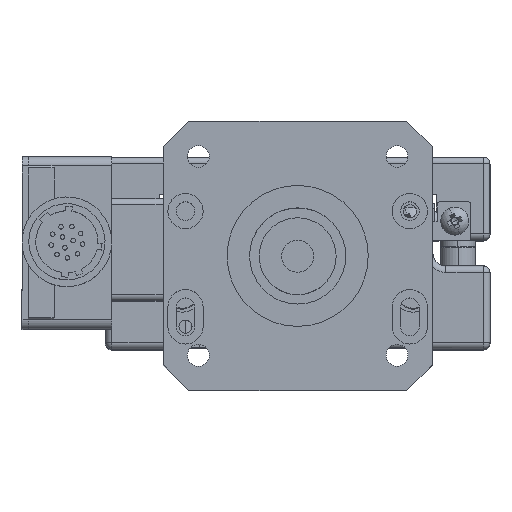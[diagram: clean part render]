
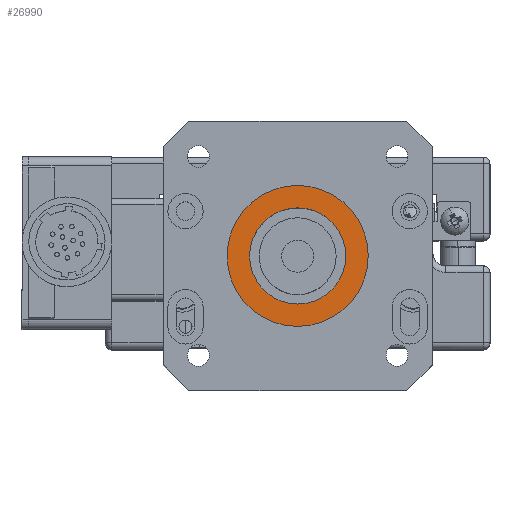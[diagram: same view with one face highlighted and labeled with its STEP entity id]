
A CAD part, top view. The second image highlights one B-rep face of the part: STEP entity #26990.
In plain terms, the highlighted planar face has unit normal (0, 0, 1).
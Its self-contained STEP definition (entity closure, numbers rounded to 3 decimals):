
#665 = PLANE ( 'NONE',  #44807 ) ;
#7030 = CIRCLE ( 'NONE', #30398, 11. ) ;
#8927 = EDGE_LOOP ( 'NONE', ( #24164, #52452 ) ) ;
#9082 = CARTESIAN_POINT ( 'NONE',  ( 0., 0., 11.5 ) ) ;
#9449 = EDGE_CURVE ( 'NONE', #16923, #53585, #7030, .T. ) ;
#9614 = DIRECTION ( 'NONE',  ( 0., 0., 1. ) ) ;
#9781 = ORIENTED_EDGE ( 'NONE', *, *, #30391, .T. ) ;
#14968 = EDGE_CURVE ( 'NONE', #36903, #22799, #24440, .T. ) ;
#16517 = CIRCLE ( 'NONE', #46863, 7.5 ) ;
#16923 = VERTEX_POINT ( 'NONE', #51047 ) ;
#17196 = FACE_OUTER_BOUND ( 'NONE', #8927, .T. ) ;
#18021 = CARTESIAN_POINT ( 'NONE',  ( 7.5, 0., 11.5 ) ) ;
#18703 = CARTESIAN_POINT ( 'NONE',  ( -7.5, 0., 11.5 ) ) ;
#22670 = CARTESIAN_POINT ( 'NONE',  ( 0., 0., 11.5 ) ) ;
#22799 = VERTEX_POINT ( 'NONE', #18703 ) ;
#24164 = ORIENTED_EDGE ( 'NONE', *, *, #9449, .T. ) ;
#24440 = CIRCLE ( 'NONE', #42632, 7.5 ) ;
#25619 = DIRECTION ( 'NONE',  ( 0., 0., 1. ) ) ;
#26990 = ADVANCED_FACE ( 'NONE', ( #17196, #38891 ), #665, .T. ) ;
#28196 = DIRECTION ( 'NONE',  ( 0., 0., -1. ) ) ;
#29261 = AXIS2_PLACEMENT_3D ( 'NONE', #22670, #43550, #47883 ) ;
#29760 = DIRECTION ( 'NONE',  ( 1., 0., 0. ) ) ;
#30391 = EDGE_CURVE ( 'NONE', #22799, #36903, #16517, .T. ) ;
#30398 = AXIS2_PLACEMENT_3D ( 'NONE', #9082, #25619, #50281 ) ;
#31436 = EDGE_LOOP ( 'NONE', ( #39269, #9781 ) ) ;
#36903 = VERTEX_POINT ( 'NONE', #18021 ) ;
#37350 = CARTESIAN_POINT ( 'NONE',  ( 0., 0., 11.5 ) ) ;
#37940 = CIRCLE ( 'NONE', #29261, 11. ) ;
#38165 = DIRECTION ( 'NONE',  ( 0., 0., -1. ) ) ;
#38891 = FACE_BOUND ( 'NONE', #31436, .T. ) ;
#39269 = ORIENTED_EDGE ( 'NONE', *, *, #14968, .T. ) ;
#42632 = AXIS2_PLACEMENT_3D ( 'NONE', #37350, #38165, #29760 ) ;
#43550 = DIRECTION ( 'NONE',  ( 0., 0., 1. ) ) ;
#44807 = AXIS2_PLACEMENT_3D ( 'NONE', #46763, #9614, #50269 ) ;
#45548 = DIRECTION ( 'NONE',  ( 1., 0., 0. ) ) ;
#46763 = CARTESIAN_POINT ( 'NONE',  ( 0., 0., 11.5 ) ) ;
#46863 = AXIS2_PLACEMENT_3D ( 'NONE', #53136, #28196, #45548 ) ;
#47883 = DIRECTION ( 'NONE',  ( 1., 0., 0. ) ) ;
#50269 = DIRECTION ( 'NONE',  ( 1., 0., 0. ) ) ;
#50281 = DIRECTION ( 'NONE',  ( 1., 0., 0. ) ) ;
#51047 = CARTESIAN_POINT ( 'NONE',  ( 11., 0., 11.5 ) ) ;
#51783 = EDGE_CURVE ( 'NONE', #53585, #16923, #37940, .T. ) ;
#52452 = ORIENTED_EDGE ( 'NONE', *, *, #51783, .T. ) ;
#53136 = CARTESIAN_POINT ( 'NONE',  ( 0., 0., 11.5 ) ) ;
#53220 = CARTESIAN_POINT ( 'NONE',  ( -11., 0., 11.5 ) ) ;
#53585 = VERTEX_POINT ( 'NONE', #53220 ) ;
